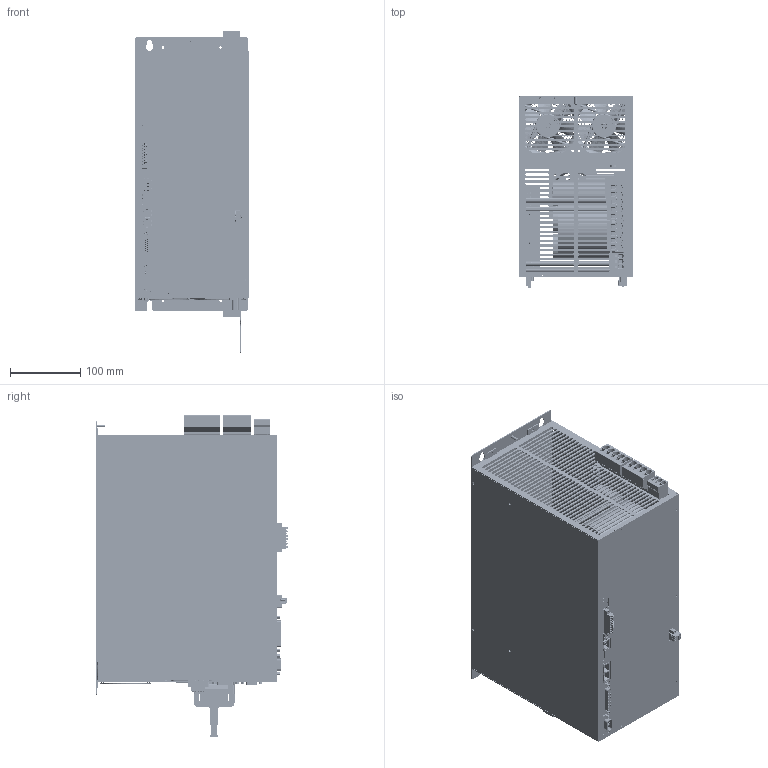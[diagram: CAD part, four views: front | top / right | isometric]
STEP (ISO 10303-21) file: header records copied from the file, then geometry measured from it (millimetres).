
FILE_DESCRIPTION(('STEP AP214'),'1');
FILE_NAME('D:/SUBVERSION/BasicLine_PROJ/HW/MECHANIK/Komplettgeräte/Komplettgerät_BL4340C_0p1_Doku.stp','2022-12-14T16:21:28',(''),(''),'Spatial InterOp 3D',' ',' ');
FILE_SCHEMA(('automotive_design'));
Length unit declared in the file: inch
Products named in the file (231): ACIS-VolumenkÃ¶rper_536; ACIS-VolumenkÃ¶rper_642; ACIS-VolumenkÃ¶rper_656; ACIS-VolumenkÃ¶rper_670; ACIS-VolumenkÃ¶rper_676; ACIS-VolumenkÃ¶rper_682; ACIS-VolumenkÃ¶rper_696; ACIS-VolumenkÃ¶rper_710; ACIS-VolumenkÃ¶rper_716; ACIS-VolumenkÃ¶rper_722; ACIS-VolumenkÃ¶rper_728; ACIS-VolumenkÃ¶rper_734; ACIS-VolumenkÃ¶rper_752; ACIS-VolumenkÃ¶rper_758; ACIS-VolumenkÃ¶rper_772; ACIS-VolumenkÃ¶rper_786; ACIS-VolumenkÃ¶rper_792; ACIS-VolumenkÃ¶rper_964; ACIS-VolumenkÃ¶rper_982; ACIS-VolumenkÃ¶rper_988; ACIS-VolumenkÃ¶rper_994; ACIS-VolumenkÃ¶rper_1000; ACIS-VolumenkÃ¶rper_1006; ACIS-VolumenkÃ¶rper_1012; ACIS-VolumenkÃ¶rper_1018; ACIS-VolumenkÃ¶rper_1024; ACIS-VolumenkÃ¶rper_1050; ACIS-VolumenkÃ¶rper_1064; ACIS-VolumenkÃ¶rper_1078; ACIS-VolumenkÃ¶rper_1084; ACIS-VolumenkÃ¶rper_1090; ACIS-VolumenkÃ¶rper_1156; ACIS-VolumenkÃ¶rper_1190; ACIS-VolumenkÃ¶rper_1204; ACIS-VolumenkÃ¶rper_1218; ACIS-VolumenkÃ¶rper_1224; ACIS-VolumenkÃ¶rper_1230; ACIS-VolumenkÃ¶rper_1244; ACIS-VolumenkÃ¶rper_1250; ACIS-VolumenkÃ¶rper_1256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
Bounding box: 162.5 x 271.9 x 457.27 mm (x, y, z)
Volume: 2323906.8 mm3; surface area: 1318800.7 mm2
Topology: 229 solids, 1929 shells, 18425 faces, 54237 edges, 39017 vertices
Faces by surface type: plane 12108, cylinder 4030, bspline 984, cone 756, torus 412, sphere 135
Full cylindrical faces by diameter (mm): 0.44 x5, 0.46 x10, 0.76 x10, 0.85 x10, 1.1 x20, 1.28 x5, 1.305 x5, 1.34 x10, 1.5 x2, 2.459 x1, 4.995 x1, 5.39 x1
Entity records: 825801 total; most frequent: CARTESIAN_POINT 185393, ORIENTED_EDGE 98028, DIRECTION 96295, EDGE_CURVE 53647, VERTEX_POINT 38553, LINE 37927, VECTOR 37927, AXIS2_PLACEMENT_3D 29184
